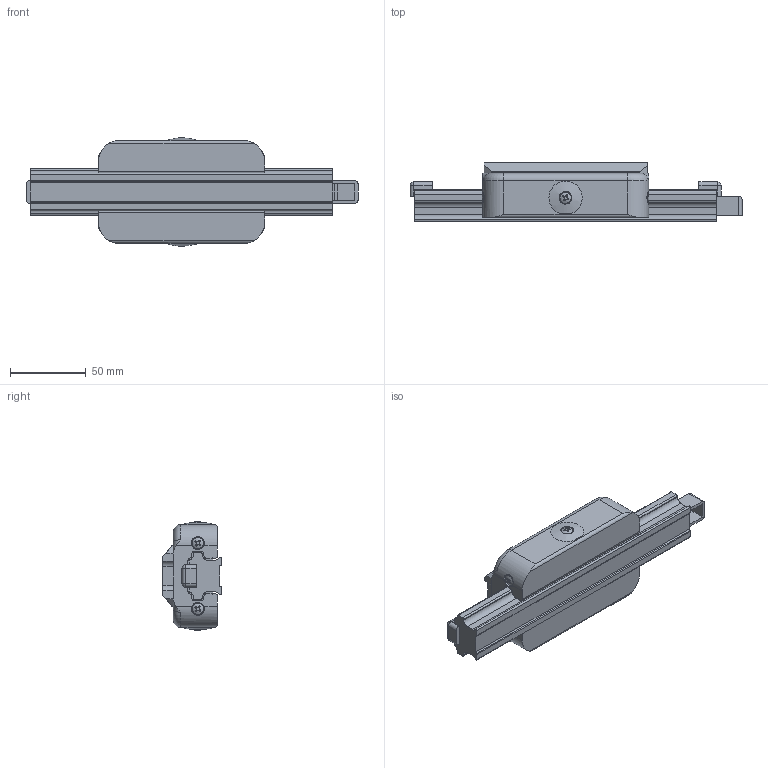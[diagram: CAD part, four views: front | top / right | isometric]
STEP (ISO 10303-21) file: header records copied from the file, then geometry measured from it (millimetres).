
FILE_DESCRIPTION(/* description */ (''),/* implementation_level */ '2;1');
FILE_NAME(/* name */ 'D:\Utenti\lucade\Desktop\4110-F.stp',/* time_stamp */ '2020-07-06T11:54:42+02:00',/* author */ ('lucade'),/* organization */ (''),/* preprocessor_version */ 'ST-DEVELOPER v18.1',/* originating_system */ 'Autodesk Inventor 2021',/* authorisation */ '');
FILE_SCHEMA (('AUTOMOTIVE_DESIGN { 1 0 10303 214 3 1 1 }'));
Length unit declared in the file: millimetre
Products named in the file (1): Parte1
Bounding box: 219.8 x 38.7 x 71.95 mm (x, y, z)
Volume: 289341.9 mm3; surface area: 41443.2 mm2
Topology: 1 solids, 1 shells, 449 faces, 1297 edges, 864 vertices
Faces by surface type: plane 236, cylinder 141, torus 28, cone 24, sphere 14, bspline 6
Full cylindrical faces by diameter (mm): 3.5 x2, 3.6 x2, 6.75 x2, 6.8 x2, 8.5 x6
Entity records: 16002 total; most frequent: CARTESIAN_POINT 3971, ORIENTED_EDGE 2590, DIRECTION 2575, EDGE_CURVE 1295, AXIS2_PLACEMENT_3D 992, VERTEX_POINT 864, LINE 591, VECTOR 591
